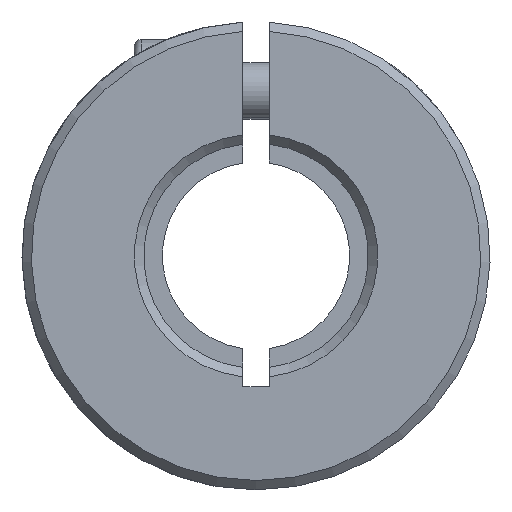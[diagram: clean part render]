
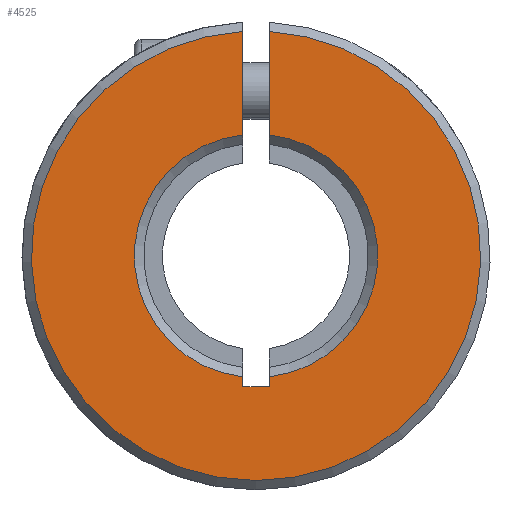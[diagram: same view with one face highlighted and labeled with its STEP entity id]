
A CAD part, front view. The second image highlights one B-rep face of the part: STEP entity #4525.
In plain terms, the highlighted planar face has unit normal (0, -1, 0).
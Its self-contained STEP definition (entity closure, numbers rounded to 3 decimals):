
#391 = VECTOR ( 'NONE', #2621, 1000. ) ;
#456 = CARTESIAN_POINT ( 'NONE',  ( 0.7, 0.25, -7. ) ) ;
#473 = DIRECTION ( 'NONE',  ( 0., 0., 1. ) ) ;
#497 = ORIENTED_EDGE ( 'NONE', *, *, #1928, .F. ) ;
#549 = AXIS2_PLACEMENT_3D ( 'NONE', #897, #4673, #4702 ) ;
#612 = EDGE_CURVE ( 'NONE', #1962, #751, #4522, .T. ) ;
#682 = CARTESIAN_POINT ( 'NONE',  ( 0.7, 0.25, -6.462 ) ) ;
#717 = CARTESIAN_POINT ( 'NONE',  ( -0.7, 0.25, -7. ) ) ;
#738 = AXIS2_PLACEMENT_3D ( 'NONE', #2297, #3969, #1860 ) ;
#751 = VERTEX_POINT ( 'NONE', #4550 ) ;
#892 = DIRECTION ( 'NONE',  ( 0., -1., 0. ) ) ;
#897 = CARTESIAN_POINT ( 'NONE',  ( 0., 0.25, 0. ) ) ;
#965 = DIRECTION ( 'NONE',  ( 0., 0., -1. ) ) ;
#1042 = CARTESIAN_POINT ( 'NONE',  ( 12.5, 0.25, -50. ) ) ;
#1113 = ORIENTED_EDGE ( 'NONE', *, *, #2585, .T. ) ;
#1132 = LINE ( 'NONE', #3705, #3565 ) ;
#1344 = CARTESIAN_POINT ( 'NONE',  ( -0.7, 0.25, -7. ) ) ;
#1363 = LINE ( 'NONE', #1836, #391 ) ;
#1836 = CARTESIAN_POINT ( 'NONE',  ( 0.7, 0.25, -7. ) ) ;
#1860 = DIRECTION ( 'NONE',  ( 0., 0., 1. ) ) ;
#1865 = FACE_OUTER_BOUND ( 'NONE', #2763, .T. ) ;
#1913 = CARTESIAN_POINT ( 'NONE',  ( -0.7, 0.25, 6.462 ) ) ;
#1928 = EDGE_CURVE ( 'NONE', #3956, #4677, #5097, .T. ) ;
#1962 = VERTEX_POINT ( 'NONE', #3981 ) ;
#2052 = CIRCLE ( 'NONE', #738, 6.5 ) ;
#2063 = LINE ( 'NONE', #717, #3442 ) ;
#2102 = DIRECTION ( 'NONE',  ( 0., 0., 1. ) ) ;
#2126 = CARTESIAN_POINT ( 'NONE',  ( -0.7, 0.25, -6.462 ) ) ;
#2297 = CARTESIAN_POINT ( 'NONE',  ( 0., 0.25, 0. ) ) ;
#2301 = PLANE ( 'NONE',  #3817 ) ;
#2357 = DIRECTION ( 'NONE',  ( 0., 0., 1. ) ) ;
#2585 = EDGE_CURVE ( 'NONE', #3956, #5357, #4916, .T. ) ;
#2621 = DIRECTION ( 'NONE',  ( 0., 0., 1. ) ) ;
#2658 = EDGE_CURVE ( 'NONE', #4099, #5357, #2063, .T. ) ;
#2763 = EDGE_LOOP ( 'NONE', ( #3152, #5021, #4073, #3439, #497, #1113, #3061, #3448 ) ) ;
#3061 = ORIENTED_EDGE ( 'NONE', *, *, #2658, .F. ) ;
#3141 = DIRECTION ( 'NONE',  ( 0., 0., -1. ) ) ;
#3152 = ORIENTED_EDGE ( 'NONE', *, *, #612, .F. ) ;
#3388 = CIRCLE ( 'NONE', #3742, 12. ) ;
#3400 = CARTESIAN_POINT ( 'NONE',  ( -0.7, 0.25, -7. ) ) ;
#3439 = ORIENTED_EDGE ( 'NONE', *, *, #4623, .F. ) ;
#3442 = VECTOR ( 'NONE', #3141, 1000. ) ;
#3448 = ORIENTED_EDGE ( 'NONE', *, *, #4016, .T. ) ;
#3565 = VECTOR ( 'NONE', #5371, 1000. ) ;
#3578 = VERTEX_POINT ( 'NONE', #456 ) ;
#3593 = VECTOR ( 'NONE', #2357, 1000. ) ;
#3594 = CARTESIAN_POINT ( 'NONE',  ( 0.7, 0.25, -7. ) ) ;
#3665 = VECTOR ( 'NONE', #965, 1000. ) ;
#3705 = CARTESIAN_POINT ( 'NONE',  ( 0.7, 0.25, -7. ) ) ;
#3742 = AXIS2_PLACEMENT_3D ( 'NONE', #4644, #892, #2102 ) ;
#3817 = AXIS2_PLACEMENT_3D ( 'NONE', #1042, #4383, #473 ) ;
#3956 = VERTEX_POINT ( 'NONE', #2126 ) ;
#3969 = DIRECTION ( 'NONE',  ( 0., 1., 0. ) ) ;
#3981 = CARTESIAN_POINT ( 'NONE',  ( 0.7, 0.25, 6.462 ) ) ;
#4016 = EDGE_CURVE ( 'NONE', #4099, #751, #3388, .T. ) ;
#4073 = ORIENTED_EDGE ( 'NONE', *, *, #5288, .F. ) ;
#4099 = VERTEX_POINT ( 'NONE', #5078 ) ;
#4383 = DIRECTION ( 'NONE',  ( 0., 1., 0. ) ) ;
#4522 = LINE ( 'NONE', #3594, #3593 ) ;
#4525 = ADVANCED_FACE ( 'NONE', ( #1865 ), #2301, .F. ) ;
#4550 = CARTESIAN_POINT ( 'NONE',  ( 0.7, 0.25, 11.98 ) ) ;
#4623 = EDGE_CURVE ( 'NONE', #4677, #3578, #1132, .T. ) ;
#4644 = CARTESIAN_POINT ( 'NONE',  ( 0., 0.25, 0. ) ) ;
#4673 = DIRECTION ( 'NONE',  ( 0., 1., 0. ) ) ;
#4677 = VERTEX_POINT ( 'NONE', #3400 ) ;
#4702 = DIRECTION ( 'NONE',  ( 0., 0., 1. ) ) ;
#4916 = CIRCLE ( 'NONE', #549, 6.5 ) ;
#5021 = ORIENTED_EDGE ( 'NONE', *, *, #5231, .T. ) ;
#5078 = CARTESIAN_POINT ( 'NONE',  ( -0.7, 0.25, 11.98 ) ) ;
#5097 = LINE ( 'NONE', #1344, #3665 ) ;
#5231 = EDGE_CURVE ( 'NONE', #1962, #5299, #2052, .T. ) ;
#5288 = EDGE_CURVE ( 'NONE', #3578, #5299, #1363, .T. ) ;
#5299 = VERTEX_POINT ( 'NONE', #682 ) ;
#5357 = VERTEX_POINT ( 'NONE', #1913 ) ;
#5371 = DIRECTION ( 'NONE',  ( 1., 0., 0. ) ) ;
